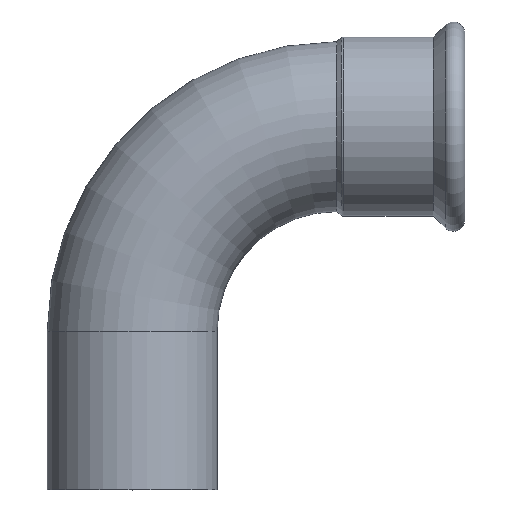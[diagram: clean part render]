
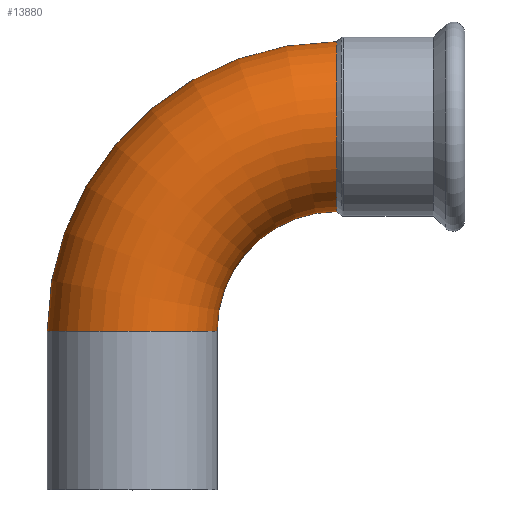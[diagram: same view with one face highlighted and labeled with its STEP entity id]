
A CAD part, top view. The second image highlights one B-rep face of the part: STEP entity #13880.
In plain terms, the highlighted toroidal (fillet/blend) face has major radius 107 mm and minor radius 44.45 mm.
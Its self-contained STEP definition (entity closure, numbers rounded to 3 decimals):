
#1360=CARTESIAN_POINT('',(4.,44.45,0.));
#1370=VERTEX_POINT('',#1360);
#1550=CARTESIAN_POINT('',(4.,-44.45,0.));
#1560=VERTEX_POINT('',#1550);
#1590=CARTESIAN_POINT('',(4.,0.,0.));
#1600=DIRECTION('',(-1.,0.,0.));
#1610=DIRECTION('',(0.,1.,0.));
#1620=AXIS2_PLACEMENT_3D('',#1590,#1600,#1610);
#1630=CIRCLE('',#1620,44.45);
#1640=EDGE_CURVE('',#1560,#1370,#1630,.T.);
#13510=CARTESIAN_POINT('',(4.,-107.,0.));
#13520=DIRECTION('',(0.,0.,1.));
#13530=DIRECTION('',(0.,1.,0.));
#13540=AXIS2_PLACEMENT_3D('',#13510,#13520,#13530);
#13550=TOROIDAL_SURFACE('',#13540,107.,44.45);
#13560=CARTESIAN_POINT('',(-103.,-107.,0.));
#13570=DIRECTION('',(0.,-1.,0.));
#13580=DIRECTION('',(-1.,0.,0.));
#13590=AXIS2_PLACEMENT_3D('',#13560,#13570,#13580);
#13600=CIRCLE('',#13590,44.45);
#13610=CARTESIAN_POINT('',(-103.,-107.,44.45));
#13620=VERTEX_POINT('',#13610);
#13630=CARTESIAN_POINT('',(-147.45,-107.,0.));
#13640=VERTEX_POINT('',#13630);
#13650=EDGE_CURVE('',#13620,#13640,#13600,.T.);
#13660=ORIENTED_EDGE('',*,*,#13650,.F.);
#13670=CARTESIAN_POINT('',(4.,-107.,0.));
#13680=DIRECTION('',(0.,0.,1.));
#13690=DIRECTION('',(0.,1.,0.));
#13700=AXIS2_PLACEMENT_3D('',#13670,#13680,#13690);
#13710=CIRCLE('',#13700,151.45);
#13720=EDGE_CURVE('',#1370,#13640,#13710,.T.);
#13730=ORIENTED_EDGE('',*,*,#13720,.T.);
#13740=ORIENTED_EDGE('',*,*,#1640,.T.);
#13750=CARTESIAN_POINT('',(4.,-107.,0.));
#13760=DIRECTION('',(0.,0.,1.));
#13770=DIRECTION('',(0.,1.,0.));
#13780=AXIS2_PLACEMENT_3D('',#13750,#13760,#13770);
#13790=CIRCLE('',#13780,62.55);
#13800=CARTESIAN_POINT('',(-58.55,-107.,0.));
#13810=VERTEX_POINT('',#13800);
#13820=EDGE_CURVE('',#1560,#13810,#13790,.T.);
#13830=ORIENTED_EDGE('',*,*,#13820,.F.);
#13840=EDGE_CURVE('',#13810,#13620,#13600,.T.);
#13850=ORIENTED_EDGE('',*,*,#13840,.F.);
#13860=EDGE_LOOP('',(#13850,#13830,#13740,#13730,#13660));
#13870=FACE_OUTER_BOUND('',#13860,.T.);
#13880=ADVANCED_FACE('',(#13870),#13550,.T.);
